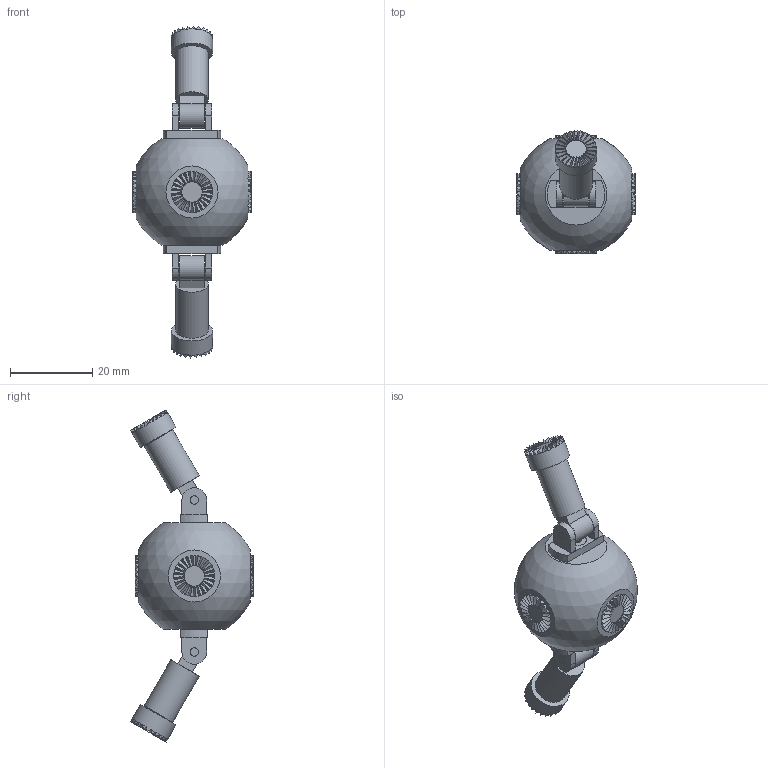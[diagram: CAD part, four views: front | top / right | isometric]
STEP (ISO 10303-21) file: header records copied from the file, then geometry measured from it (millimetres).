
FILE_DESCRIPTION(('Open CASCADE Model'),'2;1');
FILE_NAME('Open CASCADE Shape Model','2026-10-23T00:30:05',('Author'),( 'Open CASCADE'),'Open CASCADE STEP processor 7.9','Open CASCADE 7.9' ,'Unknown');
FILE_SCHEMA(('AUTOMOTIVE_DESIGN { 1 0 10303 214 1 1 1 1 }'));
Length unit declared in the file: millimetre
Products named in the file (10): bot_V120; bot0_body; bot0_turret_top; bot0_pin_top; bot0_arm_top; bot0_tip_top; bot0_turret_bottom; bot0_pin_bottom; bot0_arm_bottom; bot0_tip_bottom
Assembly tree (9 placements, depth 2):
  bot_V120
    bot0_body
    bot0_turret_top
    bot0_pin_top
    bot0_arm_top
    bot0_tip_top
    bot0_turret_bottom
    bot0_pin_bottom
    bot0_arm_bottom
    bot0_tip_bottom
Bounding box: 28.8 x 29.92 x 80.79 mm (x, y, z)
Volume: 6207.9 mm3; surface area: 9536 mm2
Topology: 9 solids, 9 shells, 880 faces, 2132 edges, 1298 vertices
Faces by surface type: cylinder 472, bspline 288, plane 118, sphere 2
Full cylindrical faces by diameter (mm): 2 x2, 2.04 x6, 2.6 x2, 3.8 x4, 5 x4, 5.2 x2, 6 x2, 8 x2, 10 x6, 14.967 x2
Entity records: 66767 total; most frequent: CARTESIAN_POINT 30769, DIRECTION 4307, ORIENTED_EDGE 4264, PCURVE 4264, DEFINITIONAL_REPRESENTATION 4264, B_SPLINE_CURVE_WITH_KNOTS 3834, EDGE_CURVE 2132, SURFACE_CURVE 2096
